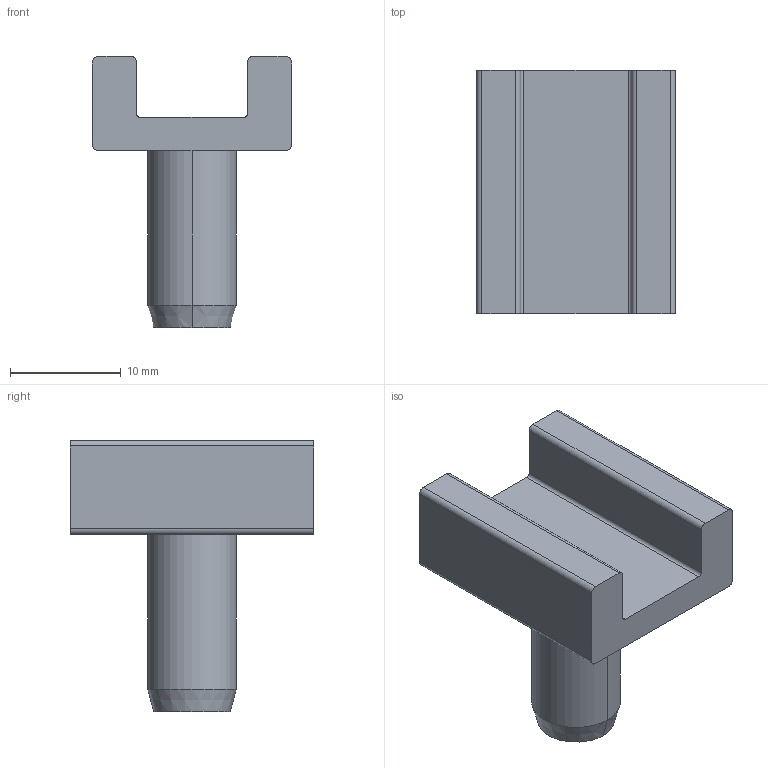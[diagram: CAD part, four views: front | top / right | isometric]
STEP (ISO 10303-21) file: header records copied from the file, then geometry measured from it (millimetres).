
FILE_DESCRIPTION (( 'STEP AP203' ), '1' );
FILE_NAME ('F060104.STEP', '2017-03-22T13:01:23', ( 'Localadmin' ), ( 'Microsoft' ), 'SwSTEP 2.0', 'SolidWorks 2016', '' );
FILE_SCHEMA (( 'CONFIG_CONTROL_DESIGN' ));
Length unit declared in the file: millimetre
Products named in the file (1): F060104
Bounding box: 18 x 22 x 24.5 mm (x, y, z)
Volume: 2941.1 mm3; surface area: 1957.3 mm2
Topology: 1 solids, 1 shells, 23 faces, 58 edges, 38 vertices
Faces by surface type: plane 11, cylinder 10, cone 2
Entity records: 775 total; most frequent: DIRECTION 128, CARTESIAN_POINT 120, ORIENTED_EDGE 116, EDGE_CURVE 58, AXIS2_PLACEMENT_3D 46, VERTEX_POINT 38, VECTOR 36, LINE 36
